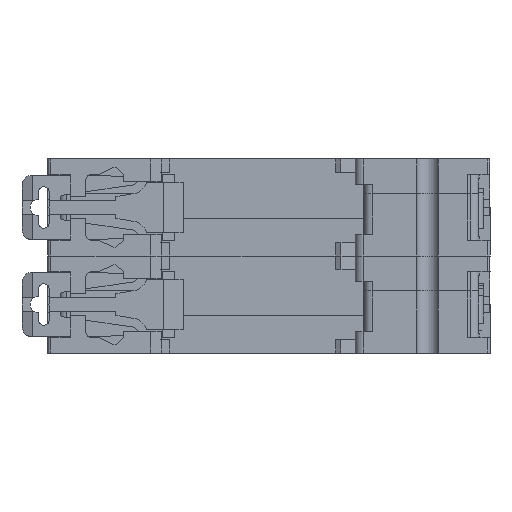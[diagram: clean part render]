
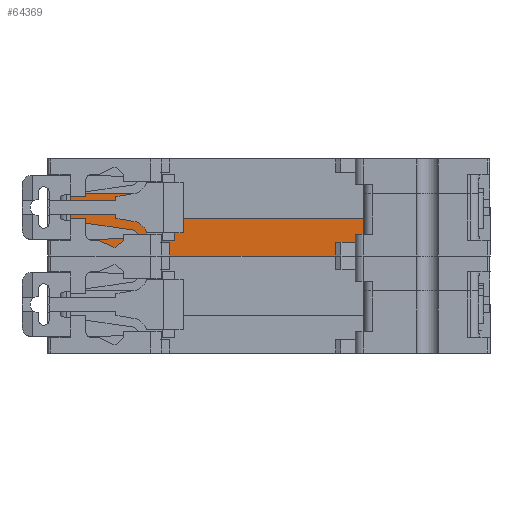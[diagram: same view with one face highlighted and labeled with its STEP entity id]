
A CAD part, front view. The second image highlights one B-rep face of the part: STEP entity #64369.
In plain terms, the highlighted planar face has unit normal (0, -1, 0).
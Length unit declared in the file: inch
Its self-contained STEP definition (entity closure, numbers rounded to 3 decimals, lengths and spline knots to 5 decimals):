
#1697 = VECTOR ( 'NONE', #44962, 39.37008 ) ;
#1976 = CARTESIAN_POINT ( 'NONE',  ( -0.71654, 0., 0. ) ) ;
#2705 = LINE ( 'NONE', #85167, #68577 ) ;
#3970 = LINE ( 'NONE', #39784, #96583 ) ;
#4791 = CARTESIAN_POINT ( 'NONE',  ( 0.62992, 0., 0. ) ) ;
#5996 = ORIENTED_EDGE ( 'NONE', *, *, #86365, .T. ) ;
#6203 = CARTESIAN_POINT ( 'NONE',  ( -0.71654, 0., 0. ) ) ;
#7265 = CARTESIAN_POINT ( 'NONE',  ( -1.51575, 0., 0.11417 ) ) ;
#9586 = EDGE_CURVE ( 'NONE', #45809, #74016, #78047, .T. ) ;
#9837 = EDGE_CURVE ( 'NONE', #110992, #87805, #76579, .T. ) ;
#10117 = DIRECTION ( 'NONE',  ( 0., 0., 1. ) ) ;
#11602 = CARTESIAN_POINT ( 'NONE',  ( -0.8937, 0., 0.09843 ) ) ;
#12830 = DIRECTION ( 'NONE',  ( 0., 0., -1. ) ) ;
#13196 = DIRECTION ( 'NONE',  ( 0., 0., -1. ) ) ;
#13852 = VERTEX_POINT ( 'NONE', #15723 ) ;
#14381 = ORIENTED_EDGE ( 'NONE', *, *, #16584, .T. ) ;
#14633 = CARTESIAN_POINT ( 'NONE',  ( -1.4311, 0., 0.44882 ) ) ;
#15182 = DIRECTION ( 'NONE',  ( -1., 0., 0. ) ) ;
#15723 = CARTESIAN_POINT ( 'NONE',  ( -1.22839, 0., 0.11417 ) ) ;
#16530 = VECTOR ( 'NONE', #55603, 39.37008 ) ;
#16584 = EDGE_CURVE ( 'NONE', #37521, #95899, #46033, .T. ) ;
#22157 = ORIENTED_EDGE ( 'NONE', *, *, #73312, .F. ) ;
#23273 = CARTESIAN_POINT ( 'NONE',  ( -1.51575, 0., 0.11417 ) ) ;
#23369 = VECTOR ( 'NONE', #29122, 39.37008 ) ;
#23751 = VERTEX_POINT ( 'NONE', #50020 ) ;
#25115 = ORIENTED_EDGE ( 'NONE', *, *, #112811, .T. ) ;
#25271 = DIRECTION ( 'NONE',  ( 1., 0., 0. ) ) ;
#25334 = DIRECTION ( 'NONE',  ( 1., 0., 0. ) ) ;
#25930 = VECTOR ( 'NONE', #12830, 39.37008 ) ;
#26543 = VERTEX_POINT ( 'NONE', #6203 ) ;
#26985 = CARTESIAN_POINT ( 'NONE',  ( -0.8937, 0., 0.05906 ) ) ;
#27210 = VECTOR ( 'NONE', #38945, 39.37008 ) ;
#27598 = EDGE_CURVE ( 'NONE', #85335, #66932, #3970, .T. ) ;
#27698 = CARTESIAN_POINT ( 'NONE',  ( -0.63583, 0., 0.27165 ) ) ;
#28032 = CARTESIAN_POINT ( 'NONE',  ( -1.22839, 0., 0.11417 ) ) ;
#29122 = DIRECTION ( 'NONE',  ( 1., 0., 0. ) ) ;
#29643 = ORIENTED_EDGE ( 'NONE', *, *, #95375, .T. ) ;
#30324 = VECTOR ( 'NONE', #15182, 39.37008 ) ;
#32359 = VECTOR ( 'NONE', #10117, 39.37008 ) ;
#32568 = VERTEX_POINT ( 'NONE', #101210 ) ;
#33181 = CARTESIAN_POINT ( 'NONE',  ( 1.17126, 0., 0.44882 ) ) ;
#34992 = DIRECTION ( 'NONE',  ( 0.944, 0., -0.33 ) ) ;
#37521 = VERTEX_POINT ( 'NONE', #11602 ) ;
#37579 = ORIENTED_EDGE ( 'NONE', *, *, #48926, .F. ) ;
#37789 = LINE ( 'NONE', #27698, #32359 ) ;
#37984 = EDGE_CURVE ( 'NONE', #32568, #110887, #70296, .T. ) ;
#38100 = CARTESIAN_POINT ( 'NONE',  ( -0.71654, 0., 0.09843 ) ) ;
#38945 = DIRECTION ( 'NONE',  ( 1., 0., 0. ) ) ;
#39784 = CARTESIAN_POINT ( 'NONE',  ( 0.62992, 0., 0.09843 ) ) ;
#40708 = VECTOR ( 'NONE', #61663, 39.37008 ) ;
#41876 = CARTESIAN_POINT ( 'NONE',  ( 0.62992, 0., 0.09843 ) ) ;
#42861 = PLANE ( 'NONE',  #80142 ) ;
#44962 = DIRECTION ( 'NONE',  ( 0., 0., 1. ) ) ;
#45809 = VERTEX_POINT ( 'NONE', #46881 ) ;
#45985 = CARTESIAN_POINT ( 'NONE',  ( 0.68504, 0., 0.27165 ) ) ;
#46033 = LINE ( 'NONE', #79052, #114956 ) ;
#46881 = CARTESIAN_POINT ( 'NONE',  ( -0.63583, 0., 0.44882 ) ) ;
#48878 = CARTESIAN_POINT ( 'NONE',  ( -1.11024, 0., 0.05906 ) ) ;
#48926 = EDGE_CURVE ( 'NONE', #23751, #74016, #2705, .T. ) ;
#48977 = LINE ( 'NONE', #38100, #75675 ) ;
#49392 = DIRECTION ( 'NONE',  ( 0., 0., 1. ) ) ;
#50020 = CARTESIAN_POINT ( 'NONE',  ( -1.4311, 0., 0.11417 ) ) ;
#52244 = CARTESIAN_POINT ( 'NONE',  ( 0.48031, 0., 0.09843 ) ) ;
#52660 = ORIENTED_EDGE ( 'NONE', *, *, #66561, .F. ) ;
#52748 = EDGE_CURVE ( 'NONE', #110887, #37521, #73226, .T. ) ;
#54489 = ORIENTED_EDGE ( 'NONE', *, *, #52748, .T. ) ;
#55603 = DIRECTION ( 'NONE',  ( 1., 0., 0. ) ) ;
#56720 = ORIENTED_EDGE ( 'NONE', *, *, #111335, .T. ) ;
#56956 = CARTESIAN_POINT ( 'NONE',  ( -1.51575, 0., 0.11417 ) ) ;
#60471 = LINE ( 'NONE', #28032, #84420 ) ;
#60568 = CARTESIAN_POINT ( 'NONE',  ( 0.68504, 0., 0.27165 ) ) ;
#61663 = DIRECTION ( 'NONE',  ( 0., 0., -1. ) ) ;
#62054 = CARTESIAN_POINT ( 'NONE',  ( -0.63583, 0., 0.27165 ) ) ;
#64103 = LINE ( 'NONE', #1976, #16530 ) ;
#64369 = ADVANCED_FACE ( 'NONE', ( #90257 ), #42861, .T. ) ;
#65359 = LINE ( 'NONE', #91913, #23369 ) ;
#66418 = ORIENTED_EDGE ( 'NONE', *, *, #87979, .T. ) ;
#66561 = EDGE_CURVE ( 'NONE', #114651, #101938, #88473, .T. ) ;
#66932 = VERTEX_POINT ( 'NONE', #4791 ) ;
#68269 = CARTESIAN_POINT ( 'NONE',  ( -1.05122, 0., 0.11417 ) ) ;
#68441 = CARTESIAN_POINT ( 'NONE',  ( -0.8937, 0., 0.05906 ) ) ;
#68577 = VECTOR ( 'NONE', #49392, 39.37008 ) ;
#68580 = ORIENTED_EDGE ( 'NONE', *, *, #9586, .T. ) ;
#70144 = ORIENTED_EDGE ( 'NONE', *, *, #104777, .T. ) ;
#70296 = LINE ( 'NONE', #88352, #91409 ) ;
#70633 = ORIENTED_EDGE ( 'NONE', *, *, #80271, .T. ) ;
#71472 = VECTOR ( 'NONE', #113073, 39.37008 ) ;
#73226 = LINE ( 'NONE', #26985, #1697 ) ;
#73312 = EDGE_CURVE ( 'NONE', #110992, #101668, #91914, .T. ) ;
#74016 = VERTEX_POINT ( 'NONE', #14633 ) ;
#74055 = VERTEX_POINT ( 'NONE', #68269 ) ;
#74386 = EDGE_CURVE ( 'NONE', #26543, #101938, #64103, .T. ) ;
#75525 = CARTESIAN_POINT ( 'NONE',  ( 0.68504, 0., 0. ) ) ;
#75675 = VECTOR ( 'NONE', #91895, 39.37008 ) ;
#76469 = CARTESIAN_POINT ( 'NONE',  ( -0.71654, 0., 0.09843 ) ) ;
#76579 = LINE ( 'NONE', #45985, #103298 ) ;
#77099 = CARTESIAN_POINT ( 'NONE',  ( 0.48031, 0., 0.09843 ) ) ;
#78047 = LINE ( 'NONE', #33181, #30324 ) ;
#78194 = VECTOR ( 'NONE', #104078, 39.37008 ) ;
#78994 = DIRECTION ( 'NONE',  ( 0., -1., 0. ) ) ;
#79052 = CARTESIAN_POINT ( 'NONE',  ( -0.8937, 0., 0.09843 ) ) ;
#79921 = LINE ( 'NONE', #86350, #71472 ) ;
#80142 = AXIS2_PLACEMENT_3D ( 'NONE', #7265, #78994, #25271 ) ;
#80271 = EDGE_CURVE ( 'NONE', #98546, #74055, #79921, .T. ) ;
#80574 = LINE ( 'NONE', #77099, #96048 ) ;
#80878 = ORIENTED_EDGE ( 'NONE', *, *, #74386, .T. ) ;
#80985 = LINE ( 'NONE', #23273, #78194 ) ;
#84420 = VECTOR ( 'NONE', #90827, 39.37008 ) ;
#85167 = CARTESIAN_POINT ( 'NONE',  ( -1.4311, 0., 0.11417 ) ) ;
#85335 = VERTEX_POINT ( 'NONE', #41876 ) ;
#85619 = EDGE_CURVE ( 'NONE', #87805, #45809, #37789, .T. ) ;
#86151 = DIRECTION ( 'NONE',  ( 1., 0., 0. ) ) ;
#86350 = CARTESIAN_POINT ( 'NONE',  ( -1.11024, 0., 0.05906 ) ) ;
#86365 = EDGE_CURVE ( 'NONE', #95899, #26543, #48977, .T. ) ;
#87805 = VERTEX_POINT ( 'NONE', #62054 ) ;
#87979 = EDGE_CURVE ( 'NONE', #66932, #101668, #65359, .T. ) ;
#88352 = CARTESIAN_POINT ( 'NONE',  ( -1.05118, 0., 0.11417 ) ) ;
#88473 = LINE ( 'NONE', #52244, #40708 ) ;
#90257 = FACE_OUTER_BOUND ( 'NONE', #113621, .T. ) ;
#90827 = DIRECTION ( 'NONE',  ( 0.906, 0., -0.423 ) ) ;
#91301 = CARTESIAN_POINT ( 'NONE',  ( 0.48031, 0., 0. ) ) ;
#91409 = VECTOR ( 'NONE', #34992, 39.37008 ) ;
#91895 = DIRECTION ( 'NONE',  ( 0., 0., -1. ) ) ;
#91913 = CARTESIAN_POINT ( 'NONE',  ( -0.71654, 0., 0. ) ) ;
#91914 = LINE ( 'NONE', #75525, #25930 ) ;
#95375 = EDGE_CURVE ( 'NONE', #74055, #32568, #80985, .T. ) ;
#95420 = ORIENTED_EDGE ( 'NONE', *, *, #37984, .T. ) ;
#95899 = VERTEX_POINT ( 'NONE', #76469 ) ;
#96048 = VECTOR ( 'NONE', #86151, 39.37008 ) ;
#96583 = VECTOR ( 'NONE', #13196, 39.37008 ) ;
#96780 = ORIENTED_EDGE ( 'NONE', *, *, #85619, .T. ) ;
#98546 = VERTEX_POINT ( 'NONE', #48878 ) ;
#101210 = CARTESIAN_POINT ( 'NONE',  ( -1.05118, 0., 0.11417 ) ) ;
#101594 = ORIENTED_EDGE ( 'NONE', *, *, #27598, .T. ) ;
#101646 = LINE ( 'NONE', #56956, #27210 ) ;
#101668 = VERTEX_POINT ( 'NONE', #105492 ) ;
#101938 = VERTEX_POINT ( 'NONE', #91301 ) ;
#103298 = VECTOR ( 'NONE', #108867, 39.37008 ) ;
#104078 = DIRECTION ( 'NONE',  ( 1., 0., 0. ) ) ;
#104612 = CARTESIAN_POINT ( 'NONE',  ( 0.48031, 0., 0.09843 ) ) ;
#104777 = EDGE_CURVE ( 'NONE', #114651, #85335, #80574, .T. ) ;
#105492 = CARTESIAN_POINT ( 'NONE',  ( 0.68504, 0., 0. ) ) ;
#108867 = DIRECTION ( 'NONE',  ( -1., 0., 0. ) ) ;
#110887 = VERTEX_POINT ( 'NONE', #68441 ) ;
#110992 = VERTEX_POINT ( 'NONE', #60568 ) ;
#111335 = EDGE_CURVE ( 'NONE', #23751, #13852, #101646, .T. ) ;
#111687 = ORIENTED_EDGE ( 'NONE', *, *, #9837, .T. ) ;
#112811 = EDGE_CURVE ( 'NONE', #13852, #98546, #60471, .T. ) ;
#113073 = DIRECTION ( 'NONE',  ( 0.731, 0., 0.683 ) ) ;
#113621 = EDGE_LOOP ( 'NONE', ( #52660, #70144, #101594, #66418, #22157, #111687, #96780, #68580, #37579, #56720, #25115, #70633, #29643, #95420, #54489, #14381, #5996, #80878 ) ) ;
#114651 = VERTEX_POINT ( 'NONE', #104612 ) ;
#114956 = VECTOR ( 'NONE', #25334, 39.37008 ) ;
